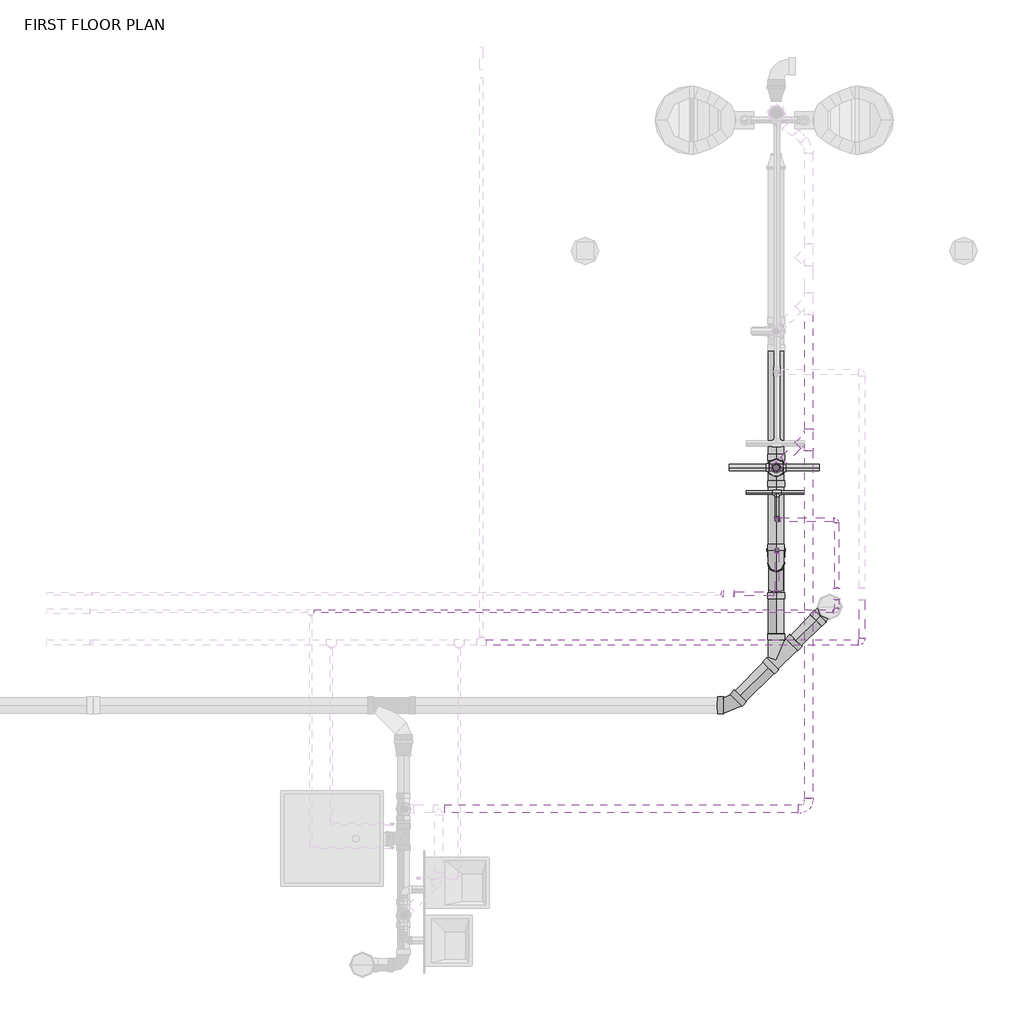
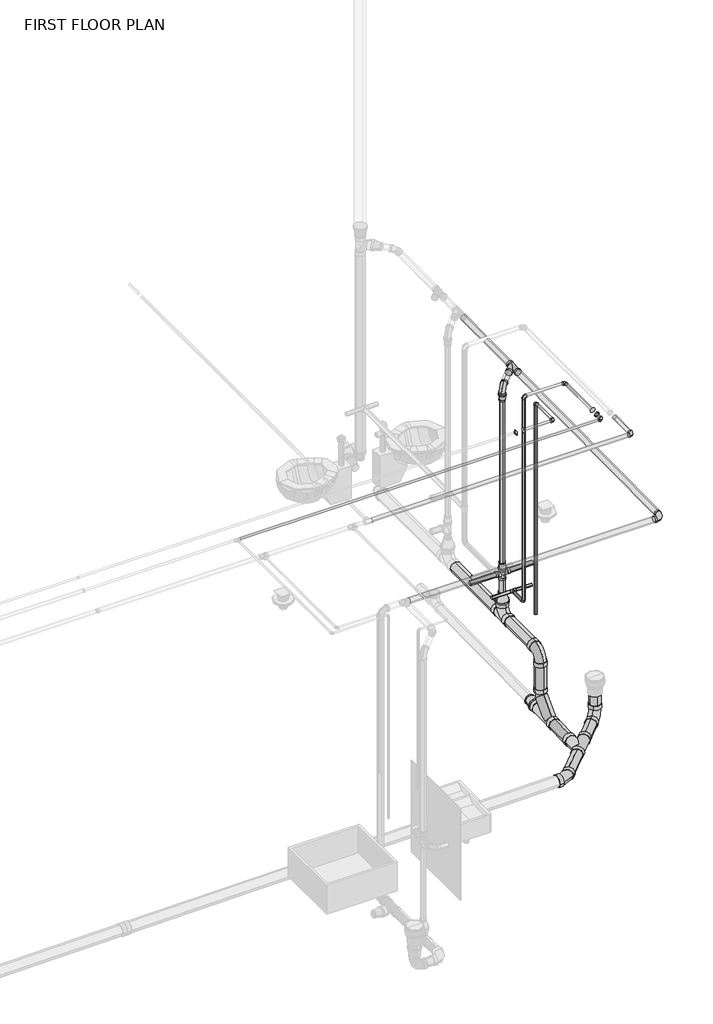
# One storey, part 8 of 9: 28 pipe segments, 27 pipe fittings.
"""IFC4 building model written with IfcOpenShell, lengths in millimetres."""

from ifc_helpers import new_model, si_unit, point, frame, frame_2d, origin, place, context, project, spatial, circle_curve, trimmed, segment, composite_curve, outline, extrude, transform, mapped, element, save
from components import bend_pvc_sch_40_dwv_standard_1fb0f857, bend_pvc_sch_40_dwv_standard_ce96d308, bend_pvc_sch_40_dwv_standard_28706a6a, bend_pvc_sch_40_dwv_standard_1d57d0cc, bend_pvc_sch_40_dwv_standard_1eaeee76, coupling_concentric_reducing_threaded_mi_class_150_standard_b08cc743, coupling_concentric_reducing_threaded_mi_class_150_standard_6ad044ed, coupling_concentric_reducing_threaded_mi_class_150_standard_f28a3886, coupling_concentric_reducing_threaded_mi_class_150_standard_01227178, ges_wye_45_deg_reducing_pvc_sch_40_dwv_standard_7655e975, ges_wye_45_deg_reducing_pvc_sch_40_dwv_standard_89ce02b8, pipe_elbow_copper_k_557be1fc, pipe_elbow_copper_k_a25a5501, pipe_tee_copper_k_feafe2f1, pipe_transition_copper_k_5e01dc24, pipe_transition_copper_k_b4f16853, pipe_transition_copper_k_2e591508, standard_fcad7560, tee_reducing_double_sanitary_pvc_sch_40_dwv_standard_617f8680, tee_sanitary_pvc_sch_40_dwv_standard_dcb2d9f4

model = new_model("IFC4")

# Units and contexts
model_context = context("Model", 3, world=origin())
ifc_project = project(units=[si_unit("LENGTHUNIT", "METRE", prefix="MILLI")], contexts=[model_context])

# Site, building, storey
site = spatial("IfcSite", under=ifc_project)
building = spatial("IfcBuilding", under=site)
storey = spatial("IfcBuildingStorey", under=building, Name="FIRST FLOOR PLAN", Elevation=0.0)

# Pipe fittings
placement = place(None, origin())
bend_pvc_sch_40_dwv_standard_shape = bend_pvc_sch_40_dwv_standard_1fb0f857(model_context)
element("IfcPipeFitting", 1, ObjectType="Bend - PVC - Sch 40 - DWV : Standard", at=placement, inside=storey, context=model_context, shape_type="MappedRepresentation", body=[
    mapped(bend_pvc_sch_40_dwv_standard_shape, transform((37521.1703511, 6286.4074664, 236.474), x_axis=(0.0, -1.0, 0.0), y_axis=(0.0, 0.0, -1.0), z_axis=(1.0, 0.0, 0.0))),
])
bend_pvc_sch_40_dwv_standard_2_shape = bend_pvc_sch_40_dwv_standard_ce96d308(model_context)
element("IfcPipeFitting", 2, ObjectType="Bend - PVC - Sch 40 - DWV : Standard", at=placement, inside=storey, context=model_context, shape_type="MappedRepresentation", body=[
    mapped(bend_pvc_sch_40_dwv_standard_2_shape, transform((37521.075643, 7000.9492681, 2819.0836709), x_axis=(0.0, 0.0, 1.0), y_axis=(0.7070763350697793, 0.7071372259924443, 0.0), z_axis=(-0.7071372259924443, 0.7070763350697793, 0.0))),
])
bend_pvc_sch_40_dwv_standard_3_shape = bend_pvc_sch_40_dwv_standard_28706a6a(model_context)
element("IfcPipeFitting", 3, ObjectType="Bend - PVC - Sch 40 - DWV : Standard", at=placement, inside=storey, context=model_context, shape_type="MappedRepresentation", body=[
    mapped(bend_pvc_sch_40_dwv_standard_3_shape, transform((37184.5699634, 5226.9278226, -443.4059788), x_axis=(0.9999457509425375, 0.0, 0.010416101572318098), y_axis=(-4.50384029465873e-05, 0.999990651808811, 0.004323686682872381), z_axis=(-0.010416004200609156, -0.004323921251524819, 0.999936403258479))),
])
bend_pvc_sch_40_dwv_standard_4_shape = bend_pvc_sch_40_dwv_standard_1d57d0cc(model_context)
element("IfcPipeFitting", 4, ObjectType="Bend - PVC - Sch 40 - DWV : Standard", at=placement, inside=storey, context=model_context, shape_type="MappedRepresentation", body=[
    mapped(bend_pvc_sch_40_dwv_standard_4_shape, transform((37921.0139969, 5963.3451402, -432.5503552), x_axis=(0.7070825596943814, 0.7070541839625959, 0.010422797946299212), y_axis=(-0.007370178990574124, -0.007369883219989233, 0.9999456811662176), z_axis=(0.7070925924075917, -0.7071209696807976, 0.0))),
])
bend_pvc_sch_40_dwv_standard_5_shape = bend_pvc_sch_40_dwv_standard_1eaeee76(model_context)
element("IfcPipeFitting", 5, ObjectType="Bend - PVC - Sch 40 - DWV : Standard", at=placement, inside=storey, context=model_context, shape_type="MappedRepresentation", body=[
    mapped(bend_pvc_sch_40_dwv_standard_5_shape, transform((37765.6298852, 4454.4669418, 2794.0000054), x_axis=(0.9999999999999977, 0.0, 6.910317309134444e-08), y_axis=(-7.196047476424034e-10, 0.9999457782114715, 0.010413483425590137), z_axis=(-6.909942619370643e-08, -0.010413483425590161, 0.999945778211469))),
])
coupling_concentric_reducing_threaded_mi_class_150_standard_shape = coupling_concentric_reducing_threaded_mi_class_150_standard_b08cc743(model_context)
element("IfcPipeFitting", 6, ObjectType="Coupling Concentric Reducing - Threaded - MI - Class 150 : Standard", at=placement, inside=storey, context=model_context, shape_type="MappedRepresentation", body=[
    mapped(coupling_concentric_reducing_threaded_mi_class_150_standard_shape, transform((37521.075643, 7000.9492681, 379.349), x_axis=(0.0, 0.0, 1.0), y_axis=(-1.0, 0.0, 0.0), z_axis=(0.0, -1.0, 0.0))),
])
coupling_concentric_reducing_threaded_mi_class_150_standard_2_shape = coupling_concentric_reducing_threaded_mi_class_150_standard_6ad044ed(model_context)
element("IfcPipeFitting", 7, ObjectType="Coupling Concentric Reducing - Threaded - MI - Class 150 : Standard", at=placement, inside=storey, context=model_context, shape_type="MappedRepresentation", body=[
    mapped(coupling_concentric_reducing_threaded_mi_class_150_standard_2_shape, transform((37521.075643, 7000.9492681, 753.9816766), x_axis=(0.0, 0.0, 1.0), y_axis=(-1.0, 0.0, 0.0), z_axis=(0.0, -1.0, 0.0))),
])
coupling_concentric_reducing_threaded_mi_class_150_standard_3_shape = coupling_concentric_reducing_threaded_mi_class_150_standard_f28a3886(model_context)
element("IfcPipeFitting", 8, ObjectType="Coupling Concentric Reducing - Threaded - MI - Class 150 : Standard", at=placement, inside=storey, context=model_context, shape_type="MappedRepresentation", body=[
    mapped(coupling_concentric_reducing_threaded_mi_class_150_standard_3_shape, transform((37521.075643, 7000.9492681, 2669.8834709), x_axis=(0.0, 0.0, 1.0), y_axis=(-1.0, 0.0, 0.0), z_axis=(0.0, -1.0, 0.0))),
])
coupling_concentric_reducing_threaded_mi_class_150_standard_4_shape = coupling_concentric_reducing_threaded_mi_class_150_standard_01227178(model_context)
element("IfcPipeFitting", 9, ObjectType="Coupling Concentric Reducing - Threaded - MI - Class 150 : Standard", at=placement, inside=storey, context=model_context, shape_type="MappedRepresentation", body=[
    mapped(coupling_concentric_reducing_threaded_mi_class_150_standard_4_shape, transform((37521.1950846, 6378.4457548, -428.2226744), x_axis=(-7.039439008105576e-07, 0.999921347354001, 0.012541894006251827), y_axis=(-0.9999999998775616, -8.999523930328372e-07, 1.562265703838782e-05), z_axis=(1.5632715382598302e-05, -0.012541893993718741, 0.9999213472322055))),
])
ges_wye_45_deg_reducing_pvc_sch_40_dwv_standard_shape = ges_wye_45_deg_reducing_pvc_sch_40_dwv_standard_7655e975(model_context)
element("IfcPipeFitting", 10, ObjectType="GES Wye 45 Deg Reducing - PVC - Sch 40 - DWV : Standard", at=placement, inside=storey, context=model_context, shape_type="MappedRepresentation", body=[
    mapped(ges_wye_45_deg_reducing_pvc_sch_40_dwv_standard_shape, transform((37765.6298852, 7245.5245703, 2823.0662138), x_axis=(0.0, 0.9999457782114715, 0.010413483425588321), y_axis=(0.9999827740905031, -6.112237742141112e-05, 0.005869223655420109), z_axis=(0.005869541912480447, 0.010413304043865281, -0.9999285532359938))),
])
ges_wye_45_deg_reducing_pvc_sch_40_dwv_standard_2_shape = ges_wye_45_deg_reducing_pvc_sch_40_dwv_standard_89ce02b8(model_context)
element("IfcPipeFitting", 11, ObjectType="GES Wye 45 Deg Reducing - PVC - Sch 40 - DWV : Standard", at=placement, inside=storey, context=model_context, shape_type="MappedRepresentation", body=[
    mapped(ges_wye_45_deg_reducing_pvc_sch_40_dwv_standard_2_shape, transform((37521.1956583, 5563.5428466, -438.4439042), x_axis=(0.7070825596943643, 0.7070541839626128, 0.010422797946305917), y_axis=(0.707127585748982, -0.7070481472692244, -0.007314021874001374), z_axis=(0.0021980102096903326, 0.012541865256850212, -0.9999189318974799))),
])
pipe_elbow_copper_k_shape = pipe_elbow_copper_k_557be1fc(model_context)
element("IfcPipeFitting", 12, ObjectType="Pipe Elbow : Copper- K", at=placement, inside=storey, context=model_context, shape_type="MappedRepresentation", body=[
    mapped(pipe_elbow_copper_k_shape, transform((38162.9555388, 5696.5205406, 2847.5440079), x_axis=(1.0, 0.0, 0.0), y_axis=(0.0, 1.0, 0.0), z_axis=(0.0, 0.0, 1.0))),
])
pipe_elbow_copper_k_2_shape = pipe_elbow_copper_k_a25a5501(model_context)
element("IfcPipeFitting", 13, ObjectType="Pipe Elbow : Copper- K", at=placement, inside=storey, context=model_context, shape_type="MappedRepresentation", body=[
    mapped(pipe_elbow_copper_k_2_shape, transform((37974.0601037, 5928.9468422, 2942.828125), x_axis=(1.0, 0.0, 0.0), y_axis=(0.0, 1.0, 0.0), z_axis=(0.0, 0.0, 1.0))),
])
element("IfcPipeFitting", 14, ObjectType="Pipe Elbow : Copper- K", at=placement, inside=storey, context=model_context, shape_type="MappedRepresentation", body=[
    mapped(pipe_elbow_copper_k_2_shape, transform((37974.0601037, 6612.2741014, 2942.828125), x_axis=(0.0, 1.0, 0.0), y_axis=(-1.0, 0.0, 0.0), z_axis=(0.0, 0.0, 1.0))),
])
element("IfcPipeFitting", 15, ObjectType="Pipe Elbow : Copper- K", at=placement, inside=storey, context=model_context, shape_type="MappedRepresentation", body=[
    mapped(pipe_elbow_copper_k_2_shape, transform((37527.9555388, 6059.1974224, 3007.2552732), x_axis=(1.0, 0.0, 0.0), y_axis=(0.0, 1.0, 0.0), z_axis=(0.0, 0.0, 1.0))),
])
element("IfcPipeFitting", 16, ObjectType="Pipe Elbow : Copper- K", at=placement, inside=storey, context=model_context, shape_type="MappedRepresentation", body=[
    mapped(pipe_elbow_copper_k_2_shape, transform((37527.9555388, 6612.2741014, 2942.828125), x_axis=(-1.0, 0.0, 0.0), y_axis=(0.0, 0.0, -1.0), z_axis=(0.0, -1.0, 0.0))),
])
element("IfcPipeFitting", 17, ObjectType="Pipe Elbow : Copper- K", at=placement, inside=storey, context=model_context, shape_type="MappedRepresentation", body=[
    mapped(pipe_elbow_copper_k_2_shape, transform((37527.9555388, 6387.1923199, 3007.2552732), x_axis=(0.0, 1.0, 0.0), y_axis=(0.0, 0.0, -1.0), z_axis=(-1.0, 0.0, 0.0))),
])
element("IfcPipeFitting", 18, ObjectType="Pipe Elbow : Copper- K", at=placement, inside=storey, context=model_context, shape_type="MappedRepresentation", body=[
    mapped(pipe_elbow_copper_k_2_shape, transform((37527.9555388, 6612.2741014, 606.028125), x_axis=(0.0, 0.0, -1.0), y_axis=(0.0, 1.0, 0.0), z_axis=(1.0, 0.0, 0.0))),
])
pipe_tee_copper_k_shape = pipe_tee_copper_k_feafe2f1(model_context)
element("IfcPipeFitting", 19, ObjectType="Pipe Tee : Copper- K", at=placement, inside=storey, context=model_context, shape_type="MappedRepresentation", body=[
    mapped(pipe_tee_copper_k_shape, transform((37527.9555388, 6815.4741014, 606.028125), x_axis=(-1.0, 0.0, 0.0), y_axis=(0.0, 1.0, 0.0), z_axis=(0.0, 0.0, -1.0))),
])
pipe_transition_copper_k_shape = pipe_transition_copper_k_5e01dc24(model_context)
element("IfcPipeFitting", 20, ObjectType="Pipe Transition : Copper- K", at=placement, inside=storey, context=model_context, shape_type="MappedRepresentation", body=[
    mapped(pipe_transition_copper_k_shape, transform((37974.0601037, 6013.5885474, 2942.828125), x_axis=(0.0, 1.0, 0.0), y_axis=(-1.0, 0.0, 0.0), z_axis=(0.0, 0.0, 1.0))),
])
element("IfcPipeFitting", 21, ObjectType="Pipe Transition : Copper- K", at=placement, inside=storey, context=model_context, shape_type="MappedRepresentation", body=[
    mapped(pipe_transition_copper_k_shape, transform((37974.0601037, 6104.8062974, 2942.828125), x_axis=(0.0, -1.0, 0.0), y_axis=(1.0, 0.0, 0.0), z_axis=(0.0, 0.0, 1.0))),
])
element("IfcPipeFitting", 22, ObjectType="Pipe Transition : Copper- K", at=placement, inside=storey, context=model_context, shape_type="MappedRepresentation", body=[
    mapped(pipe_transition_copper_k_shape, transform((37210.5205168, 6059.1974224, 3007.2229223), x_axis=(-1.0, 0.0, 0.0), y_axis=(0.0, -1.0, 0.0), z_axis=(0.0, 0.0, 1.0))),
])
pipe_transition_copper_k_2_shape = pipe_transition_copper_k_b4f16853(model_context)
element("IfcPipeFitting", 23, ObjectType="Pipe Transition : Copper- K", at=placement, inside=storey, context=model_context, shape_type="MappedRepresentation", body=[
    mapped(pipe_transition_copper_k_2_shape, transform((37950.2476037, 5928.9468422, 2942.828125), x_axis=(-1.0, 0.0, 0.0), y_axis=(0.0, -1.0, 0.0), z_axis=(0.0, 0.0, 1.0))),
])
pipe_transition_copper_k_3_shape = pipe_transition_copper_k_2e591508(model_context)
element("IfcPipeFitting", 24, ObjectType="Pipe Transition : Copper- K", at=placement, inside=storey, context=model_context, shape_type="MappedRepresentation", body=[
    mapped(pipe_transition_copper_k_3_shape, transform((37126.0496418, 6059.1974224, 3007.2229223), x_axis=(-1.0, 0.0, 0.0), y_axis=(0.0, -0.9999997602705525, 0.0006924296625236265), z_axis=(0.0, 0.0006924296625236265, 0.9999997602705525))),
])
standard_shape = standard_fcad7560(model_context)
element("IfcPipeFitting", 25, ObjectType="GES Wye Combination with 8th Bend - PVC - Sch 40 - DWV : Standard", at=placement, inside=storey, context=model_context, shape_type="MappedRepresentation", body=[
    mapped(standard_shape, transform((37521.1951494, 6286.4257721, -429.3768701), x_axis=(-7.039439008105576e-07, 0.999921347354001, 0.012541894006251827), y_axis=(-1.5632715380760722e-05, 0.012541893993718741, -0.9999213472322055), z_axis=(-0.9999999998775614, -8.999523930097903e-07, 1.562265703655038e-05))),
])
tee_reducing_double_sanitary_pvc_sch_40_dwv_standard_shape = tee_reducing_double_sanitary_pvc_sch_40_dwv_standard_617f8680(model_context)
element("IfcPipeFitting", 26, ObjectType="Tee Reducing Double Sanitary - PVC - Sch 40 - DWV : Standard", at=placement, inside=storey, context=model_context, shape_type="MappedRepresentation", body=[
    mapped(tee_reducing_double_sanitary_pvc_sch_40_dwv_standard_shape, transform((37521.075643, 7000.9492681, 704.7818766), x_axis=(0.0, 0.0, 1.0), y_axis=(1.0, 0.0, 0.0), z_axis=(0.0, 1.0, 0.0))),
])
tee_sanitary_pvc_sch_40_dwv_standard_shape = tee_sanitary_pvc_sch_40_dwv_standard_dcb2d9f4(model_context)
element("IfcPipeFitting", 27, ObjectType="Tee Sanitary - PVC - Sch 40 - DWV : Standard", at=placement, inside=storey, context=model_context, shape_type="MappedRepresentation", body=[
    mapped(tee_sanitary_pvc_sch_40_dwv_standard_shape, transform((37521.1703511, 7000.8605294, 236.474), x_axis=(0.0, 1.0, 0.0), y_axis=(0.0, 0.0, -1.0), z_axis=(-1.0, 0.0, 0.0))),
])

# Pipe segments
element("IfcPipeSegment", 28, ObjectType="Copper", at=placement, inside=storey, context=model_context, shape_type="SweptSolid", body=[
    extrude(outline(composite_curve([segment(trimmed(circle_curve(frame_2d((5928.9468422, 2942.828125)), 11.1125), [point((5917.8343422, 2942.828125))], [point((5928.9468422, 2953.940625))], False, "CARTESIAN"), True, "CONTINUOUS"), segment(trimmed(circle_curve(frame_2d((5928.9468422, 2942.828125)), 11.1125), [point((5928.9468422, 2953.940625))], [point((5940.0593422, 2942.828125))], False, "CARTESIAN"), True, "CONTINUOUS"), segment(trimmed(circle_curve(frame_2d((5928.9468422, 2942.828125)), 11.1125), [point((5940.0593422, 2942.828125))], [point((5928.9468422, 2931.715625))], False, "CARTESIAN"), True, "CONTINUOUS"), segment(trimmed(circle_curve(frame_2d((5928.9468422, 2942.828125)), 11.1125), [point((5928.9468422, 2931.715625))], [point((5917.8343422, 2942.828125))], False, "CARTESIAN"), True, "CONTINUOUS")], self_intersect=False)), frame((34075.4464678, 0.0, 0.0), z_axis=(1.0, 0.0, 0.0), x_axis=(0.0, 1.0, 0.0)), (0.0, 0.0, 1.0), 3867.6573859),
])
element("IfcPipeSegment", 29, ObjectType="Copper", at=placement, inside=storey, context=model_context, shape_type="SweptSolid", body=[
    extrude(outline(composite_curve([segment(trimmed(circle_curve(frame_2d((5696.5205406, 2847.5440079)), 20.6375), [point((5675.8830406, 2847.5440079))], [point((5696.5205406, 2868.1815079))], False, "CARTESIAN"), True, "CONTINUOUS"), segment(trimmed(circle_curve(frame_2d((5696.5205406, 2847.5440079)), 20.6375), [point((5696.5205406, 2868.1815079))], [point((5717.1580406, 2847.5440079))], False, "CARTESIAN"), True, "CONTINUOUS"), segment(trimmed(circle_curve(frame_2d((5696.5205406, 2847.5440079)), 20.6375), [point((5717.1580406, 2847.5440079))], [point((5696.5205406, 2826.9065079))], False, "CARTESIAN"), True, "CONTINUOUS"), segment(trimmed(circle_curve(frame_2d((5696.5205406, 2847.5440079)), 20.6375), [point((5696.5205406, 2826.9065079))], [point((5675.8830406, 2847.5440079))], False, "CARTESIAN"), True, "CONTINUOUS")], self_intersect=False)), frame((35358.4365213, 0.0, 0.0), z_axis=(1.0, 0.0, 0.0), x_axis=(0.0, 1.0, 0.0)), (0.0, 0.0, 1.0), 2774.3565175),
])
element("IfcPipeSegment", 30, ObjectType="Copper", at=placement, inside=storey, context=model_context, shape_type="SweptSolid", body=[
    extrude(outline(composite_curve([segment(trimmed(circle_curve(frame_2d((6059.1974224, 3007.2229223)), 14.2875), [point((6044.9099224, 3007.2229223))], [point((6059.1974224, 3021.5104223))], False, "CARTESIAN"), True, "CONTINUOUS"), segment(trimmed(circle_curve(frame_2d((6059.1974224, 3007.2229223)), 14.2875), [point((6059.1974224, 3021.5104223))], [point((6073.4849224, 3007.2229223))], False, "CARTESIAN"), True, "CONTINUOUS"), segment(trimmed(circle_curve(frame_2d((6059.1974224, 3007.2229223)), 14.2875), [point((6073.4849224, 3007.2229223))], [point((6059.1974224, 2992.9354223))], False, "CARTESIAN"), True, "CONTINUOUS"), segment(trimmed(circle_curve(frame_2d((6059.1974224, 3007.2229223)), 14.2875), [point((6059.1974224, 2992.9354223))], [point((6044.9099224, 3007.2229223))], False, "CARTESIAN"), True, "CONTINUOUS")], self_intersect=False)), frame((37210.5205168, 0.0, 0.0), z_axis=(1.0, 0.0, 0.0), x_axis=(0.0, 1.0, 0.0)), (0.0, 0.0, 1.0), 293.6225221),
])
element("IfcPipeSegment", 31, ObjectType="Copper", at=placement, inside=storey, context=model_context, shape_type="SweptSolid", body=[
    extrude(outline(composite_curve([segment(trimmed(circle_curve(frame_2d((2942.828125, 37974.0601037)), 14.2875), [point((2942.828125, 37988.3476037))], [point((2957.115625, 37974.0601037))], False, "CARTESIAN"), True, "CONTINUOUS"), segment(trimmed(circle_curve(frame_2d((2942.828125, 37974.0601037)), 14.2875), [point((2957.115625, 37974.0601037))], [point((2942.828125, 37959.7726037))], False, "CARTESIAN"), True, "CONTINUOUS"), segment(trimmed(circle_curve(frame_2d((2942.828125, 37974.0601037)), 14.2875), [point((2942.828125, 37959.7726037))], [point((2928.540625, 37974.0601037))], False, "CARTESIAN"), True, "CONTINUOUS"), segment(trimmed(circle_curve(frame_2d((2942.828125, 37974.0601037)), 14.2875), [point((2928.540625, 37974.0601037))], [point((2942.828125, 37988.3476037))], False, "CARTESIAN"), True, "CONTINUOUS")], self_intersect=False)), frame((0.0, 6104.8062974, 0.0), z_axis=(0.0, 1.0, 0.0), x_axis=(0.0, 0.0, 1.0)), (0.0, 0.0, 1.0), 483.6553039),
])
element("IfcPipeSegment", 32, ObjectType="Copper", at=placement, inside=storey, context=model_context, shape_type="SweptSolid", body=[
    extrude(outline(composite_curve([segment(trimmed(circle_curve(frame_2d((6612.2741014, 2942.828125)), 14.2875), [point((6626.5616014, 2942.828125))], [point((6612.2741014, 2928.540625))], False, "CARTESIAN"), True, "CONTINUOUS"), segment(trimmed(circle_curve(frame_2d((6612.2741014, 2942.828125)), 14.2875), [point((6612.2741014, 2928.540625))], [point((6597.9866014, 2942.828125))], False, "CARTESIAN"), True, "CONTINUOUS"), segment(trimmed(circle_curve(frame_2d((6612.2741014, 2942.828125)), 14.2875), [point((6597.9866014, 2942.828125))], [point((6612.2741014, 2957.115625))], False, "CARTESIAN"), True, "CONTINUOUS"), segment(trimmed(circle_curve(frame_2d((6612.2741014, 2942.828125)), 14.2875), [point((6612.2741014, 2957.115625))], [point((6626.5616014, 2942.828125))], False, "CARTESIAN"), True, "CONTINUOUS")], self_intersect=False)), frame((37551.7680388, 0.0, 0.0), z_axis=(1.0, 0.0, 0.0), x_axis=(0.0, 1.0, 0.0)), (0.0, 0.0, 1.0), 398.4795649),
])
element("IfcPipeSegment", 33, ObjectType="Copper", at=placement, inside=storey, context=model_context, shape_type="SweptSolid", body=[
    extrude(outline(composite_curve([segment(trimmed(circle_curve(frame_2d((3007.2552732, 37527.9555388)), 14.2875), [point((3007.2552732, 37542.2430388))], [point((3021.5427732, 37527.9555388))], False, "CARTESIAN"), True, "CONTINUOUS"), segment(trimmed(circle_curve(frame_2d((3007.2552732, 37527.9555388)), 14.2875), [point((3021.5427732, 37527.9555388))], [point((3007.2552732, 37513.6680388))], False, "CARTESIAN"), True, "CONTINUOUS"), segment(trimmed(circle_curve(frame_2d((3007.2552732, 37527.9555388)), 14.2875), [point((3007.2552732, 37513.6680388))], [point((2992.9677732, 37527.9555388))], False, "CARTESIAN"), True, "CONTINUOUS"), segment(trimmed(circle_curve(frame_2d((3007.2552732, 37527.9555388)), 14.2875), [point((2992.9677732, 37527.9555388))], [point((3007.2552732, 37542.2430388))], False, "CARTESIAN"), True, "CONTINUOUS")], self_intersect=False)), frame((0.0, 6083.0099224, 0.0), z_axis=(0.0, 1.0, 0.0), x_axis=(0.0, 0.0, 1.0)), (0.0, 0.0, 1.0), 280.3698975),
])
element("IfcPipeSegment", 34, ObjectType="Copper", at=placement, inside=storey, context=model_context, shape_type="SweptSolid", body=[
    extrude(outline(composite_curve([segment(trimmed(circle_curve(frame_2d((37527.9555388, 6612.2741014)), 14.2875), [point((37542.2430388, 6612.2741014))], [point((37527.9555388, 6597.9866014))], False, "CARTESIAN"), True, "CONTINUOUS"), segment(trimmed(circle_curve(frame_2d((37527.9555388, 6612.2741014)), 14.2875), [point((37527.9555388, 6597.9866014))], [point((37513.6680388, 6612.2741014))], False, "CARTESIAN"), True, "CONTINUOUS"), segment(trimmed(circle_curve(frame_2d((37527.9555388, 6612.2741014)), 14.2875), [point((37513.6680388, 6612.2741014))], [point((37527.9555388, 6626.5616014))], False, "CARTESIAN"), True, "CONTINUOUS"), segment(trimmed(circle_curve(frame_2d((37527.9555388, 6612.2741014)), 14.2875), [point((37527.9555388, 6626.5616014))], [point((37542.2430388, 6612.2741014))], False, "CARTESIAN"), True, "CONTINUOUS")], self_intersect=False)), frame((0.0, 0.0, 629.840625), z_axis=(0.0, 0.0, 1.0), x_axis=(1.0, 0.0, 0.0)), (0.0, 0.0, 1.0), 2289.175),
])
element("IfcPipeSegment", 35, ObjectType="Copper", at=placement, inside=storey, context=model_context, shape_type="SweptSolid", body=[
    extrude(outline(composite_curve([segment(trimmed(circle_curve(frame_2d((606.028125, 37527.9555388)), 14.2875), [point((606.028125, 37542.2430388))], [point((620.315625, 37527.9555388))], False, "CARTESIAN"), True, "CONTINUOUS"), segment(trimmed(circle_curve(frame_2d((606.028125, 37527.9555388)), 14.2875), [point((620.315625, 37527.9555388))], [point((606.028125, 37513.6680388))], False, "CARTESIAN"), True, "CONTINUOUS"), segment(trimmed(circle_curve(frame_2d((606.028125, 37527.9555388)), 14.2875), [point((606.028125, 37513.6680388))], [point((591.740625, 37527.9555388))], False, "CARTESIAN"), True, "CONTINUOUS"), segment(trimmed(circle_curve(frame_2d((606.028125, 37527.9555388)), 14.2875), [point((591.740625, 37527.9555388))], [point((606.028125, 37542.2430388))], False, "CARTESIAN"), True, "CONTINUOUS")], self_intersect=False)), frame((0.0, 6636.0866014, 0.0), z_axis=(0.0, 1.0, 0.0), x_axis=(0.0, 0.0, 1.0)), (0.0, 0.0, 1.0), 149.225),
])
element("IfcPipeSegment", 36, ObjectType="Copper", at=placement, inside=storey, context=model_context, shape_type="SweptSolid", body=[
    extrude(outline(composite_curve([segment(trimmed(circle_curve(frame_2d((37527.9555388, 6387.1923199)), 14.2875), [point((37542.2430388, 6387.1923199))], [point((37527.9555388, 6372.9048199))], False, "CARTESIAN"), True, "CONTINUOUS"), segment(trimmed(circle_curve(frame_2d((37527.9555388, 6387.1923199)), 14.2875), [point((37527.9555388, 6372.9048199))], [point((37513.6680388, 6387.1923199))], False, "CARTESIAN"), True, "CONTINUOUS"), segment(trimmed(circle_curve(frame_2d((37527.9555388, 6387.1923199)), 14.2875), [point((37513.6680388, 6387.1923199))], [point((37527.9555388, 6401.4798199))], False, "CARTESIAN"), True, "CONTINUOUS"), segment(trimmed(circle_curve(frame_2d((37527.9555388, 6387.1923199)), 14.2875), [point((37527.9555388, 6401.4798199))], [point((37542.2430388, 6387.1923199))], False, "CARTESIAN"), True, "CONTINUOUS")], self_intersect=False)), frame((0.0, 0.0, 606.028125), z_axis=(0.0, 0.0, 1.0), x_axis=(1.0, 0.0, 0.0)), (0.0, 0.0, 1.0), 2377.4146482),
])
element("IfcPipeSegment", 37, ObjectType="Copper", at=placement, inside=storey, context=model_context, shape_type="SweptSolid", body=[
    extrude(outline(composite_curve([segment(trimmed(circle_curve(frame_2d((6815.4741014, 606.028125)), 14.2875), [point((6801.1866014, 606.028125))], [point((6815.4741014, 620.315625))], False, "CARTESIAN"), True, "CONTINUOUS"), segment(trimmed(circle_curve(frame_2d((6815.4741014, 606.028125)), 14.2875), [point((6815.4741014, 620.315625))], [point((6829.7616014, 606.028125))], False, "CARTESIAN"), True, "CONTINUOUS"), segment(trimmed(circle_curve(frame_2d((6815.4741014, 606.028125)), 14.2875), [point((6829.7616014, 606.028125))], [point((6815.4741014, 591.740625))], False, "CARTESIAN"), True, "CONTINUOUS"), segment(trimmed(circle_curve(frame_2d((6815.4741014, 606.028125)), 14.2875), [point((6815.4741014, 591.740625))], [point((6801.1866014, 606.028125))], False, "CARTESIAN"), True, "CONTINUOUS")], self_intersect=False)), frame((37558.1180388, 0.0, 0.0), z_axis=(1.0, 0.0, 0.0), x_axis=(0.0, 1.0, 0.0)), (0.0, 0.0, 1.0), 173.0375),
])
element("IfcPipeSegment", 38, ObjectType="Copper", at=placement, inside=storey, context=model_context, shape_type="SweptSolid", body=[
    extrude(outline(composite_curve([segment(trimmed(circle_curve(frame_2d((6815.4741014, 606.028125)), 14.2875), [point((6801.1866014, 606.028125))], [point((6815.4741014, 620.315625))], False, "CARTESIAN"), True, "CONTINUOUS"), segment(trimmed(circle_curve(frame_2d((6815.4741014, 606.028125)), 14.2875), [point((6815.4741014, 620.315625))], [point((6829.7616014, 606.028125))], False, "CARTESIAN"), True, "CONTINUOUS"), segment(trimmed(circle_curve(frame_2d((6815.4741014, 606.028125)), 14.2875), [point((6829.7616014, 606.028125))], [point((6815.4741014, 591.740625))], False, "CARTESIAN"), True, "CONTINUOUS"), segment(trimmed(circle_curve(frame_2d((6815.4741014, 606.028125)), 14.2875), [point((6815.4741014, 591.740625))], [point((6801.1866014, 606.028125))], False, "CARTESIAN"), True, "CONTINUOUS")], self_intersect=False)), frame((37299.3555388, 0.0, 0.0), z_axis=(1.0, 0.0, 0.0), x_axis=(0.0, 1.0, 0.0)), (0.0, 0.0, 1.0), 198.4375),
])
element("IfcPipeSegment", 39, ObjectType="Copper", at=placement, inside=storey, context=model_context, shape_type="SweptSolid", body=[
    extrude(outline(composite_curve([segment(trimmed(circle_curve(frame_2d((2847.5440079, 38162.9555388)), 20.6375), [point((2847.5440079, 38183.5930388))], [point((2868.1815079, 38162.9555388))], False, "CARTESIAN"), True, "CONTINUOUS"), segment(trimmed(circle_curve(frame_2d((2847.5440079, 38162.9555388)), 20.6375), [point((2868.1815079, 38162.9555388))], [point((2847.5440079, 38142.3180388))], False, "CARTESIAN"), True, "CONTINUOUS"), segment(trimmed(circle_curve(frame_2d((2847.5440079, 38162.9555388)), 20.6375), [point((2847.5440079, 38142.3180388))], [point((2826.9065079, 38162.9555388))], False, "CARTESIAN"), True, "CONTINUOUS"), segment(trimmed(circle_curve(frame_2d((2847.5440079, 38162.9555388)), 20.6375), [point((2826.9065079, 38162.9555388))], [point((2847.5440079, 38183.5930388))], False, "CARTESIAN"), True, "CONTINUOUS")], self_intersect=False)), frame((0.0, 5726.6830406, 0.0), z_axis=(0.0, 1.0, 0.0), x_axis=(0.0, 0.0, 1.0)), (0.0, 0.0, 1.0), 286.9055068),
])
element("IfcPipeSegment", 40, ObjectType="Copper", at=placement, inside=storey, context=model_context, shape_type="SweptSolid", body=[
    extrude(outline(composite_curve([segment(trimmed(circle_curve(frame_2d((2942.828125, 37974.0601037)), 14.2875), [point((2942.828125, 37988.3476037))], [point((2957.115625, 37974.0601037))], False, "CARTESIAN"), True, "CONTINUOUS"), segment(trimmed(circle_curve(frame_2d((2942.828125, 37974.0601037)), 14.2875), [point((2957.115625, 37974.0601037))], [point((2942.828125, 37959.7726037))], False, "CARTESIAN"), True, "CONTINUOUS"), segment(trimmed(circle_curve(frame_2d((2942.828125, 37974.0601037)), 14.2875), [point((2942.828125, 37959.7726037))], [point((2928.540625, 37974.0601037))], False, "CARTESIAN"), True, "CONTINUOUS"), segment(trimmed(circle_curve(frame_2d((2942.828125, 37974.0601037)), 14.2875), [point((2928.540625, 37974.0601037))], [point((2942.828125, 37988.3476037))], False, "CARTESIAN"), True, "CONTINUOUS")], self_intersect=False)), frame((0.0, 5952.7593422, 0.0), z_axis=(0.0, 1.0, 0.0), x_axis=(0.0, 0.0, 1.0)), (0.0, 0.0, 1.0), 60.8292053),
])
element("IfcPipeSegment", 41, ObjectType="PVC - SAN/STORM", at=placement, inside=storey, context=model_context, shape_type="SweptSolid", body=[
    extrude(outline(composite_curve([segment(trimmed(circle_curve(frame_2d((0.0, -57.15)), 57.15), [point((-57.15, -57.15))], [point((0.0, 0.0))], False, "CARTESIAN"), True, "CONTINUOUS"), segment(trimmed(circle_curve(frame_2d((0.0, -57.15)), 57.15), [point((0.0, 0.0))], [point((57.15, -57.15))], False, "CARTESIAN"), True, "CONTINUOUS"), segment(trimmed(circle_curve(frame_2d((0.0, -57.15)), 57.15), [point((57.15, -57.15))], [point((0.0, -114.3))], False, "CARTESIAN"), True, "CONTINUOUS"), segment(trimmed(circle_curve(frame_2d((0.0, -57.15)), 57.15), [point((0.0, -114.3))], [point((-57.15, -57.15))], False, "CARTESIAN"), True, "CONTINUOUS")], self_intersect=False)), frame((37521.1992543, 6229.2857199, -166.620812), z_axis=(6.3523555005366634e-06, 2.0721199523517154e-05, 0.9999999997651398), x_axis=(-0.9999999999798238, 1.3162804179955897e-10, 6.352355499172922e-06)), (0.0, 0.0, 1.0), 260.2209963),
])
element("IfcPipeSegment", 42, ObjectType="PVC - SAN/STORM", at=placement, inside=storey, context=model_context, shape_type="SweptSolid", body=[
    extrude(outline(composite_curve([segment(trimmed(circle_curve(frame_2d((0.0, -57.15)), 57.15), [point((-57.15, -57.1500005))], [point((-5e-07, 0.0))], False, "CARTESIAN"), True, "CONTINUOUS"), segment(trimmed(circle_curve(frame_2d((0.0, -57.15)), 57.15), [point((-5e-07, 0.0))], [point((57.15, -57.1499995))], False, "CARTESIAN"), True, "CONTINUOUS"), segment(trimmed(circle_curve(frame_2d((0.0, -57.15)), 57.15), [point((57.15, -57.1499995))], [point((5e-07, -114.3))], False, "CARTESIAN"), True, "CONTINUOUS"), segment(trimmed(circle_curve(frame_2d((0.0, -57.15)), 57.15), [point((5e-07, -114.3))], [point((-57.15, -57.1500005))], False, "CARTESIAN"), True, "CONTINUOUS")], self_intersect=False)), frame((37521.1955178, 5763.8521974, -493.0859433), z_axis=(-7.039438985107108e-07, 0.9999213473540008, 0.01254189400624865), x_axis=(0.9999999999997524, 7.03888531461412e-07, 8.828789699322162e-09)), (0.0, 0.0, 1.0), 260.1651262),
])
element("IfcPipeSegment", 43, ObjectType="PVC - SAN/STORM", at=placement, inside=storey, context=model_context, shape_type="SweptSolid", body=[
    extrude(outline(composite_curve([segment(trimmed(circle_curve(frame_2d((236.474, 37521.1703511)), 57.15), [point((236.474, 37578.3203511))], [point((293.624, 37521.1703511))], False, "CARTESIAN"), True, "CONTINUOUS"), segment(trimmed(circle_curve(frame_2d((236.474, 37521.1703511)), 57.15), [point((293.624, 37521.1703511))], [point((236.474, 37464.0203511))], False, "CARTESIAN"), True, "CONTINUOUS"), segment(trimmed(circle_curve(frame_2d((236.474, 37521.1703511)), 57.15), [point((236.474, 37464.0203511))], [point((179.324, 37521.1703511))], False, "CARTESIAN"), True, "CONTINUOUS"), segment(trimmed(circle_curve(frame_2d((236.474, 37521.1703511)), 57.15), [point((179.324, 37521.1703511))], [point((236.474, 37578.3203511))], False, "CARTESIAN"), True, "CONTINUOUS")], self_intersect=False)), frame((0.0, 7102.4605294, 0.0), z_axis=(0.0, 1.0, 0.0), x_axis=(0.0, 0.0, 1.0)), (0.0, 0.0, 1.0), 772.9174881),
])
element("IfcPipeSegment", 44, ObjectType="PVC - SAN/STORM", at=placement, inside=storey, context=model_context, shape_type="SweptSolid", body=[
    extrude(outline(composite_curve([segment(trimmed(circle_curve(frame_2d((236.474, 37521.1703511)), 57.15), [point((236.474, 37578.3203511))], [point((293.624, 37521.1703511))], False, "CARTESIAN"), True, "CONTINUOUS"), segment(trimmed(circle_curve(frame_2d((236.474, 37521.1703511)), 57.15), [point((293.624, 37521.1703511))], [point((236.474, 37464.0203511))], False, "CARTESIAN"), True, "CONTINUOUS"), segment(trimmed(circle_curve(frame_2d((236.474, 37521.1703511)), 57.15), [point((236.474, 37464.0203511))], [point((179.324, 37521.1703511))], False, "CARTESIAN"), True, "CONTINUOUS"), segment(trimmed(circle_curve(frame_2d((236.474, 37521.1703511)), 57.15), [point((179.324, 37521.1703511))], [point((236.474, 37578.3203511))], False, "CARTESIAN"), True, "CONTINUOUS")], self_intersect=False)), frame((0.0, 6429.2824664, 0.0), z_axis=(0.0, 1.0, 0.0), x_axis=(0.0, 0.0, 1.0)), (0.0, 0.0, 1.0), 428.7030629),
])
element("IfcPipeSegment", 45, ObjectType="PVC - SAN/STORM", at=placement, inside=storey, context=model_context, shape_type="SweptSolid", body=[
    extrude(outline(composite_curve([segment(trimmed(circle_curve(frame_2d((37521.075643, 7000.9492681)), 30.1625), [point((37490.913143, 7000.9492681))], [point((37521.075643, 7031.1117681))], False, "CARTESIAN"), True, "CONTINUOUS"), segment(trimmed(circle_curve(frame_2d((37521.075643, 7000.9492681)), 30.1625), [point((37521.075643, 7031.1117681))], [point((37551.238143, 7000.9492681))], False, "CARTESIAN"), True, "CONTINUOUS"), segment(trimmed(circle_curve(frame_2d((37521.075643, 7000.9492681)), 30.1625), [point((37551.238143, 7000.9492681))], [point((37521.075643, 6970.7867681))], False, "CARTESIAN"), True, "CONTINUOUS"), segment(trimmed(circle_curve(frame_2d((37521.075643, 7000.9492681)), 30.1625), [point((37521.075643, 6970.7867681))], [point((37490.913143, 7000.9492681))], False, "CARTESIAN"), True, "CONTINUOUS")], self_intersect=False)), frame((0.0, 0.0, 490.649), z_axis=(0.0, 0.0, 1.0), x_axis=(1.0, 0.0, 0.0)), (0.0, 0.0, 1.0), 145.8576766),
])
element("IfcPipeSegment", 46, ObjectType="PVC - SAN/STORM", at=placement, inside=storey, context=model_context, shape_type="SweptSolid", body=[
    extrude(outline(composite_curve([segment(trimmed(circle_curve(frame_2d((7000.9492681, 704.7818766)), 24.13), [point((7025.0792681, 704.7818766))], [point((7000.9492681, 680.6518766))], False, "CARTESIAN"), True, "CONTINUOUS"), segment(trimmed(circle_curve(frame_2d((7000.9492681, 704.7818766)), 24.13), [point((7000.9492681, 680.6518766))], [point((6976.8192681, 704.7818766))], False, "CARTESIAN"), True, "CONTINUOUS"), segment(trimmed(circle_curve(frame_2d((7000.9492681, 704.7818766)), 24.13), [point((6976.8192681, 704.7818766))], [point((7000.9492681, 728.9118766))], False, "CARTESIAN"), True, "CONTINUOUS"), segment(trimmed(circle_curve(frame_2d((7000.9492681, 704.7818766)), 24.13), [point((7000.9492681, 728.9118766))], [point((7025.0792681, 704.7818766))], False, "CARTESIAN"), True, "CONTINUOUS")], self_intersect=False)), frame((37594.100643, 0.0, 0.0), z_axis=(1.0, 0.0, 0.0), x_axis=(0.0, 1.0, 0.0)), (0.0, 0.0, 1.0), 249.3416606),
])
element("IfcPipeSegment", 47, ObjectType="PVC - SAN/STORM", at=placement, inside=storey, context=model_context, shape_type="SweptSolid", body=[
    extrude(outline(composite_curve([segment(trimmed(circle_curve(frame_2d((7000.9492681, 704.7818766)), 24.13), [point((7025.0792681, 704.7818766))], [point((7000.9492681, 680.6518766))], False, "CARTESIAN"), True, "CONTINUOUS"), segment(trimmed(circle_curve(frame_2d((7000.9492681, 704.7818766)), 24.13), [point((7000.9492681, 680.6518766))], [point((6976.8192681, 704.7818766))], False, "CARTESIAN"), True, "CONTINUOUS"), segment(trimmed(circle_curve(frame_2d((7000.9492681, 704.7818766)), 24.13), [point((6976.8192681, 704.7818766))], [point((7000.9492681, 728.9118766))], False, "CARTESIAN"), True, "CONTINUOUS"), segment(trimmed(circle_curve(frame_2d((7000.9492681, 704.7818766)), 24.13), [point((7000.9492681, 728.9118766))], [point((7025.0792681, 704.7818766))], False, "CARTESIAN"), True, "CONTINUOUS")], self_intersect=False)), frame((37173.4919037, 0.0, 0.0), z_axis=(1.0, 0.0, 0.0), x_axis=(0.0, 1.0, 0.0)), (0.0, 0.0, 1.0), 274.5587394),
])
element("IfcPipeSegment", 48, ObjectType="PVC - SAN/STORM", at=placement, inside=storey, context=model_context, shape_type="SweptSolid", body=[
    extrude(outline(composite_curve([segment(trimmed(circle_curve(frame_2d((37521.075643, 7000.9492681)), 24.13), [point((37496.945643, 7000.9492681))], [point((37521.075643, 7025.0792681))], False, "CARTESIAN"), True, "CONTINUOUS"), segment(trimmed(circle_curve(frame_2d((37521.075643, 7000.9492681)), 24.13), [point((37521.075643, 7025.0792681))], [point((37545.205643, 7000.9492681))], False, "CARTESIAN"), True, "CONTINUOUS"), segment(trimmed(circle_curve(frame_2d((37521.075643, 7000.9492681)), 24.13), [point((37545.205643, 7000.9492681))], [point((37521.075643, 6976.8192681))], False, "CARTESIAN"), True, "CONTINUOUS"), segment(trimmed(circle_curve(frame_2d((37521.075643, 7000.9492681)), 24.13), [point((37521.075643, 6976.8192681))], [point((37496.945643, 7000.9492681))], False, "CARTESIAN"), True, "CONTINUOUS")], self_intersect=False)), frame((0.0, 0.0, 825.3816766), z_axis=(0.0, 0.0, 1.0), x_axis=(1.0, 0.0, 0.0)), (0.0, 0.0, 1.0), 1844.5017942),
])
element("IfcPipeSegment", 49, ObjectType="PVC - SAN/STORM", at=placement, inside=storey, context=model_context, shape_type="SweptSolid", body=[
    extrude(outline(composite_curve([segment(trimmed(circle_curve(frame_2d((1e-07, 30.1625)), 30.1625), [point((30.1605013, 29.8152647))], [point((-0.3472353, 0.0019987))], False, "CARTESIAN"), True, "CONTINUOUS"), segment(trimmed(circle_curve(frame_2d((1e-07, 30.1625)), 30.1625), [point((-0.3472353, 0.0019987))], [point((-30.1605012, 30.5097354))], False, "CARTESIAN"), True, "CONTINUOUS"), segment(trimmed(circle_curve(frame_2d((1e-07, 30.1625)), 30.1625), [point((-30.1605012, 30.5097354))], [point((0.3472354, 60.3230012))], False, "CARTESIAN"), True, "CONTINUOUS"), segment(trimmed(circle_curve(frame_2d((1e-07, 30.1625)), 30.1625), [point((0.3472354, 60.3230012))], [point((30.1605013, 29.8152647))], False, "CARTESIAN"), True, "CONTINUOUS")], self_intersect=False)), frame((37576.0826768, 7055.4699528, 2850.1379572), z_axis=(0.7070294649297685, 0.7070903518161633, 0.011513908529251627), x_axis=(0.7071840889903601, -0.706935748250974, -0.011511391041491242)), (0.0, 0.0, 1.0), 154.8412649),
])
element("IfcPipeSegment", 50, ObjectType="PVC - SAN/STORM", at=placement, inside=storey, context=model_context, shape_type="SweptSolid", body=[
    extrude(outline(composite_curve([segment(trimmed(circle_curve(frame_2d((0.0, -30.1625001)), 30.1625), [point((-30.1625, -30.1625001))], [point((0.0, 0.0))], False, "CARTESIAN"), True, "CONTINUOUS"), segment(trimmed(circle_curve(frame_2d((0.0, -30.1625001)), 30.1625), [point((0.0, 0.0))], [point((30.1625, -30.1625001))], False, "CARTESIAN"), True, "CONTINUOUS"), segment(trimmed(circle_curve(frame_2d((0.0, -30.1625001)), 30.1625), [point((30.1625, -30.1625001))], [point((0.0, -60.325))], False, "CARTESIAN"), True, "CONTINUOUS"), segment(trimmed(circle_curve(frame_2d((0.0, -30.1625001)), 30.1625), [point((0.0, -60.325))], [point((-30.1625, -30.1625001))], False, "CARTESIAN"), True, "CONTINUOUS")], self_intersect=False)), frame((37765.6298852, 4532.57702, 2764.6493119), z_axis=(0.0, 0.9999457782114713, 0.0104134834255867), x_axis=(1.0, 0.0, 0.0)), (0.0, 0.0, 1.0), 2594.7828354),
])
element("IfcPipeSegment", 51, ObjectType="PVC - SAN/STORM", at=placement, inside=storey, context=model_context, shape_type="SweptSolid", body=[
    extrude(outline(composite_curve([segment(trimmed(circle_curve(frame_2d((0.0, -30.1625001)), 30.1625), [point((-30.1625, -30.1624992))], [point((9e-07, 0.0))], False, "CARTESIAN"), True, "CONTINUOUS"), segment(trimmed(circle_curve(frame_2d((0.0, -30.1625001)), 30.1625), [point((9e-07, 0.0))], [point((30.1625, -30.1625009))], False, "CARTESIAN"), True, "CONTINUOUS"), segment(trimmed(circle_curve(frame_2d((0.0, -30.1625001)), 30.1625), [point((30.1625, -30.1625009))], [point((-9e-07, -60.325))], False, "CARTESIAN"), True, "CONTINUOUS"), segment(trimmed(circle_curve(frame_2d((0.0, -30.1625001)), 30.1625), [point((-9e-07, -60.325))], [point((-30.1625, -30.1624992))], False, "CARTESIAN"), True, "CONTINUOUS")], self_intersect=False)), frame((37765.6298852, 7289.9921592, 2793.3651683), z_axis=(2.9107065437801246e-06, 0.9999499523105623, 0.010004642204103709), x_axis=(0.9999999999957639, -2.910560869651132e-06, -2.9120577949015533e-08)), (0.0, 0.0, 1.0), 854.6122315),
])
element("IfcPipeSegment", 52, ObjectType="PVC - SAN/STORM", at=placement, inside=storey, context=model_context, shape_type="SweptSolid", body=[
    extrude(outline(composite_curve([segment(trimmed(circle_curve(frame_2d((0.0, 57.15)), 57.15), [point((57.1468957, 56.5543455))], [point((-0.5956545, 0.0031042))], False, "CARTESIAN"), True, "CONTINUOUS"), segment(trimmed(circle_curve(frame_2d((0.0, 57.15)), 57.15), [point((-0.5956545, 0.0031042))], [point((-57.1468958, 57.7456544))], False, "CARTESIAN"), True, "CONTINUOUS"), segment(trimmed(circle_curve(frame_2d((0.0, 57.15)), 57.15), [point((-57.1468958, 57.7456544))], [point((0.5956544, 114.2968958))], False, "CARTESIAN"), True, "CONTINUOUS"), segment(trimmed(circle_curve(frame_2d((0.0, 57.15)), 57.15), [point((0.5956544, 114.2968958))], [point((57.1468957, 56.5543455))], False, "CARTESIAN"), True, "CONTINUOUS")], self_intersect=False)), frame((37669.7296191, 5711.2284809, -379.1106378), z_axis=(0.7070825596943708, 0.7070541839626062, 0.010422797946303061), x_axis=(0.7071310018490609, -0.7070057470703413, -0.01042208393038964)), (0.0, 0.0, 1.0), 212.5069485),
])
element("IfcPipeSegment", 53, ObjectType="PVC - SAN/STORM", at=placement, inside=storey, context=model_context, shape_type="SweptSolid", body=[
    extrude(outline(composite_curve([segment(trimmed(circle_curve(frame_2d((0.0, 57.15)), 57.15), [point((57.1468957, 56.5543455))], [point((-0.5956545, 0.0031042))], False, "CARTESIAN"), True, "CONTINUOUS"), segment(trimmed(circle_curve(frame_2d((0.0, 57.15)), 57.15), [point((-0.5956545, 0.0031042))], [point((-57.1468958, 57.7456544))], False, "CARTESIAN"), True, "CONTINUOUS"), segment(trimmed(circle_curve(frame_2d((0.0, 57.15)), 57.15), [point((-57.1468958, 57.7456544))], [point((0.5956545, 114.2968958))], False, "CARTESIAN"), True, "CONTINUOUS"), segment(trimmed(circle_curve(frame_2d((0.0, 57.15)), 57.15), [point((0.5956545, 114.2968958))], [point((57.1468957, 56.5543455))], False, "CARTESIAN"), True, "CONTINUOUS")], self_intersect=False)), frame((37255.2946188, 5296.8101122, -385.2196448), z_axis=(0.7070825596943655, 0.7070541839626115, 0.010422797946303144), x_axis=(0.7071310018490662, -0.7070057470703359, -0.010422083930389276)), (0.0, 0.0, 1.0), 297.3415191),
])
element("IfcPipeSegment", 54, ObjectType="PVC - SAN/STORM", at=placement, inside=storey, context=model_context, shape_type="SweptSolid", body=[
    extrude(outline(composite_curve([segment(trimmed(circle_curve(frame_2d((0.0, 57.15)), 57.15), [point((-57.15, 57.1499998))], [point((-1e-07, 114.3))], False, "CARTESIAN"), True, "CONTINUOUS"), segment(trimmed(circle_curve(frame_2d((0.0, 57.15)), 57.15), [point((-1e-07, 114.3))], [point((57.15, 57.1500001))], False, "CARTESIAN"), True, "CONTINUOUS"), segment(trimmed(circle_curve(frame_2d((0.0, 57.15)), 57.15), [point((57.15, 57.1500001))], [point((1e-07, 0.0))], False, "CARTESIAN"), True, "CONTINUOUS"), segment(trimmed(circle_curve(frame_2d((0.0, 57.15)), 57.15), [point((1e-07, 0.0))], [point((-57.15, 57.1499998))], False, "CARTESIAN"), True, "CONTINUOUS")], self_intersect=False)), frame((37921.0139969, 5906.1951404, -289.671039), z_axis=(3.205709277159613e-05, 7.552421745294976e-05, 0.9999999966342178), x_axis=(0.9999999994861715, -2.4210855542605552e-09, -3.205709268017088e-05)), (0.0, 0.0, 1.0), 111.6107722),
])
element("IfcPipeSegment", 55, ObjectType="PVC - SAN/STORM", at=placement, inside=storey, context=model_context, shape_type="SweptSolid", body=[
    extrude(outline(composite_curve([segment(trimmed(circle_curve(frame_2d((4454.4669418, 2794.0)), 30.1625), [point((4484.6294418, 2794.0))], [point((4454.4669418, 2763.8375))], False, "CARTESIAN"), True, "CONTINUOUS"), segment(trimmed(circle_curve(frame_2d((4454.4669418, 2794.0)), 30.1625), [point((4454.4669418, 2763.8375))], [point((4424.3044418, 2794.0))], False, "CARTESIAN"), True, "CONTINUOUS"), segment(trimmed(circle_curve(frame_2d((4454.4669418, 2794.0)), 30.1625), [point((4424.3044418, 2794.0))], [point((4454.4669418, 2824.1625))], False, "CARTESIAN"), True, "CONTINUOUS"), segment(trimmed(circle_curve(frame_2d((4454.4669418, 2794.0)), 30.1625), [point((4454.4669418, 2824.1625))], [point((4484.6294418, 2794.0))], False, "CARTESIAN"), True, "CONTINUOUS")], self_intersect=False)), frame((35046.819844, 0.0, 0.0), z_axis=(1.0, 0.0, 0.0), x_axis=(0.0, 1.0, 0.0)), (0.0, 0.0, 1.0), 2641.0098413),
])

save(model, "model.ifc")
